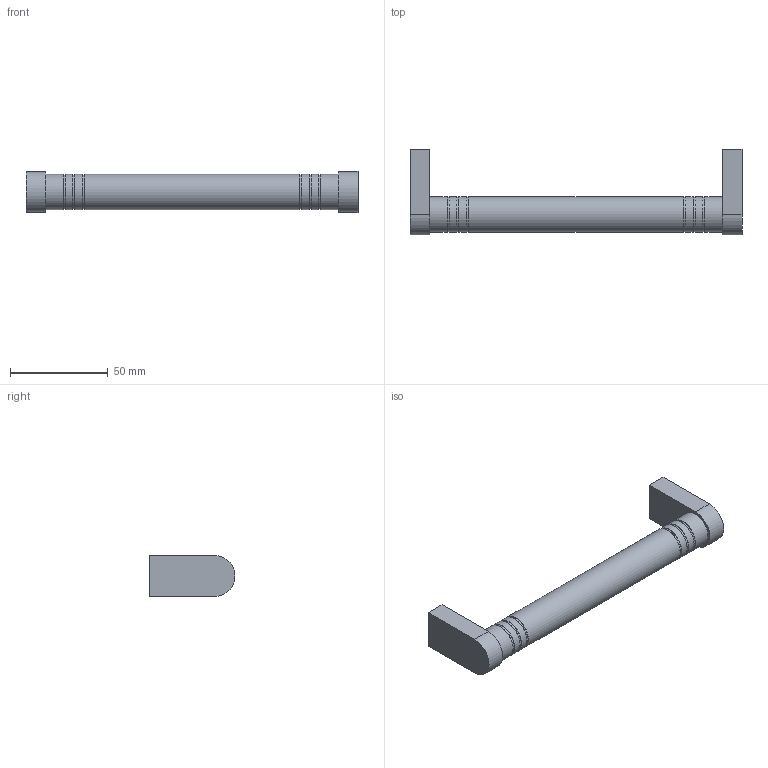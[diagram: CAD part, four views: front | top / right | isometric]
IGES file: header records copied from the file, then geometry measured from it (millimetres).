
Start section: Data from Parasolid IGES Translator 15.0.47, Copyright(c) 2006 Siemens P LM Software. All Rights Reserved.
Global section: file name: 9207448.igs; native system:  By UGS Corp.; preprocessor: XPlus GENERIC/IGES 3.0; author: Noname; organization: Noname; date: 20151221.162800; units: millimetre
Bounding box: 170 x 44 x 21 mm (x, y, z)
Surface area: 14258.7 mm2 (no closed solid volume)
Topology: 0 solids, 0 shells, 41 faces, 138 edges, 110 vertices
Faces by surface type: extrusion 24, revolution 17
